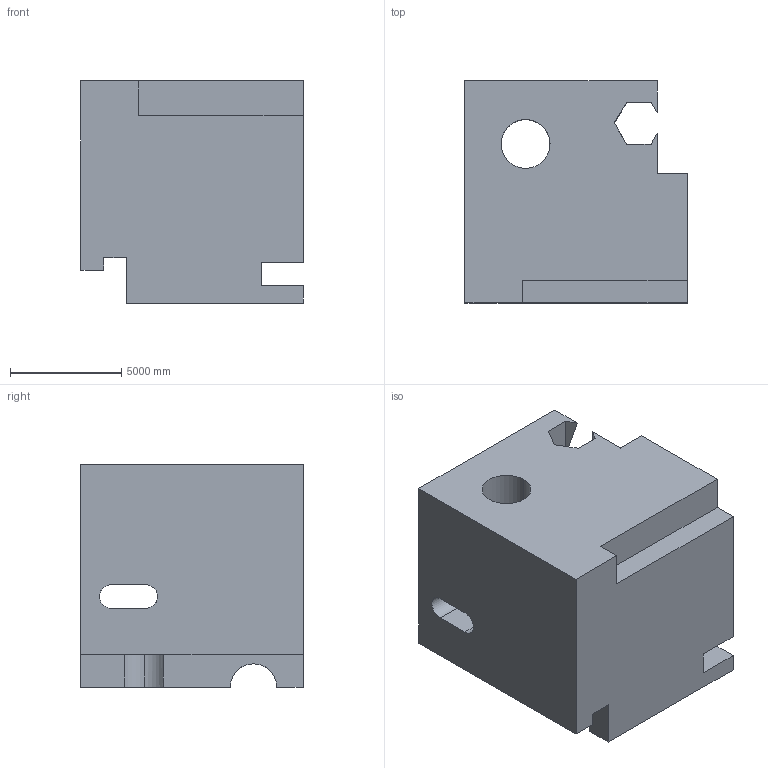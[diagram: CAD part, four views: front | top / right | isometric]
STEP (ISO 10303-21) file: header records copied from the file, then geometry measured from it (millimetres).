
FILE_DESCRIPTION (( 'STEP AP203' ), '1' );
FILE_NAME ('815.STEP', '2022-07-29T13:25:11', ( 'user' ), ( '' ), 'SwSTEP 2.0', 'SolidWorks 2021', '' );
FILE_SCHEMA (( 'CONFIG_CONTROL_DESIGN' ));
Length unit declared in the file: centimetre
Products named in the file (1): 815
Bounding box: 10000 x 10000 x 10000 mm (x, y, z)
Volume: 771005562640.7 mm3; surface area: 702155579.3 mm2
Topology: 1 solids, 1 shells, 43 faces, 135 edges, 90 vertices
Faces by surface type: plane 36, cylinder 7
Entity records: 1802 total; most frequent: CARTESIAN_POINT 511, ORIENTED_EDGE 270, DIRECTION 235, EDGE_CURVE 135, VECTOR 111, LINE 111, VERTEX_POINT 90, AXIS2_PLACEMENT_3D 62
